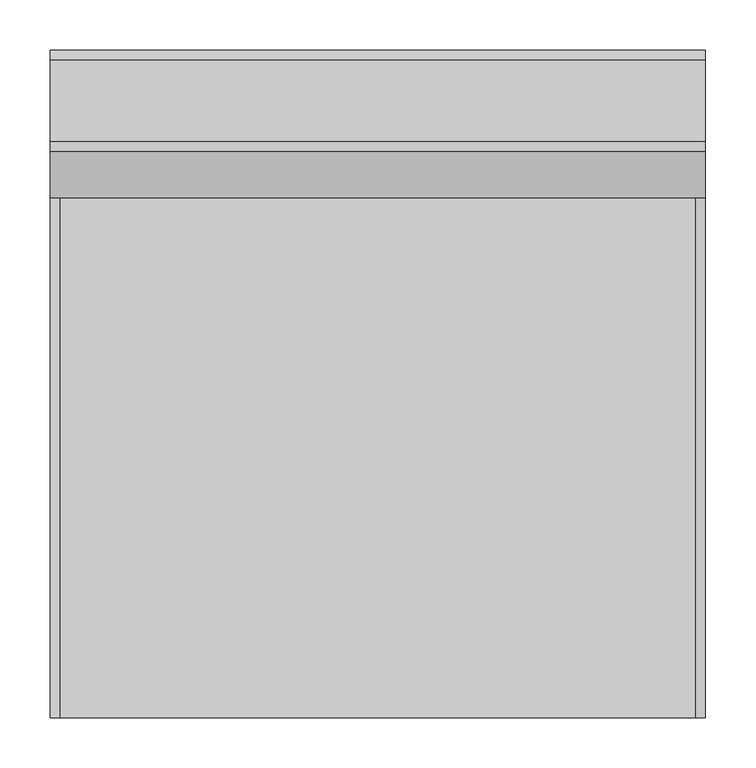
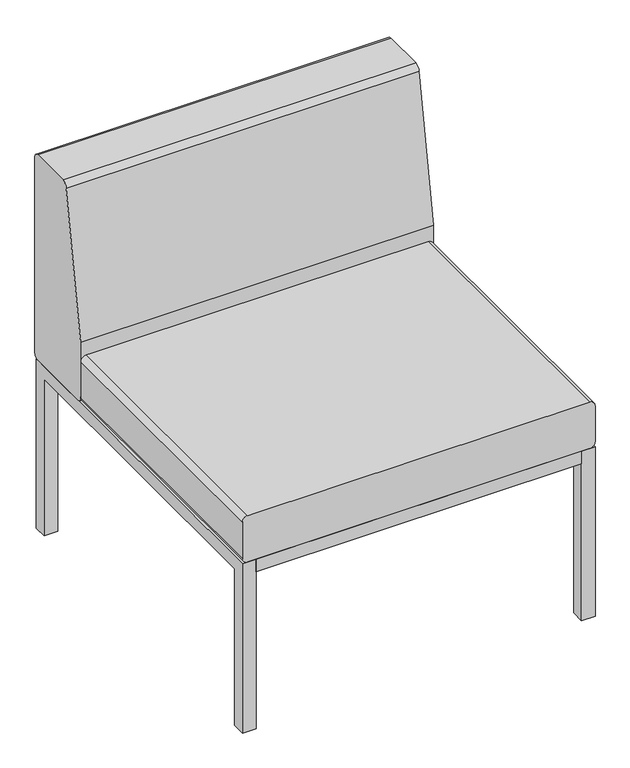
"""IFC4 building model written with IfcOpenShell, lengths in millimetres: furniture geometry, Sofá Modular - COLAB - SM 02 : Sofá Modular - COLAB - SM 02."""

from ifc_helpers import new_model, si_unit, point, frame, frame_2d, origin, place, context, project, spatial, polyline, circle_curve, trimmed, segment, composite_curve, outline, extrude, source, transform, mapped, element, save


def furniture_44890e2e(model_context):
    return source(origin(), model_context, "Body", "SweptSolid", [
        extrude(outline(composite_curve([segment(trimmed(circle_curve(frame_2d((652.0910271, 719.9999954)), 10.0000043), [point((652.0910271, 729.9999997))], [point((662.0910314, 719.9999954))], False, "CARTESIAN"), True, "CONTINUOUS"), segment(polyline([(662.0910314, 719.9999954), (662.0910314, 340.0000003)]), True, "CONTINUOUS"), segment(trimmed(circle_curve(frame_2d((652.0910191, 340.0000003)), 10.0000123), [point((662.0910314, 340.0000003))], [point((652.0910191, 329.999988))], False, "CARTESIAN"), True, "CONTINUOUS"), segment(polyline([(652.0910191, 329.999988), (525.1988265, 329.999988)]), True, "CONTINUOUS"), segment(trimmed(circle_curve(frame_2d((525.1988265, 339.9979833)), 9.9979953), [point((525.1988265, 329.999988))], [point((515.9708313, 343.8455817))], False, "CARTESIAN"), True, "CONTINUOUS"), segment(polyline([(515.9708313, 343.8455817), (515.9708313, 448.3189624), (562.0910306, 719.9999954)]), True, "CONTINUOUS"), segment(trimmed(circle_curve(frame_2d((572.0910349, 719.9999954)), 10.0000043), [point((562.0910306, 719.9999954))], [point((572.0910349, 729.9999997))], False, "CARTESIAN"), True, "CONTINUOUS"), segment(polyline([(572.0910349, 729.9999997), (652.0910271, 729.9999997)]), True, "CONTINUOUS")], self_intersect=False)), frame((0.0, 0.0, 0.0), z_axis=(1.0, 0.0, 0.0), x_axis=(0.0, 1.0, 0.0)), (0.0, 0.0, 1.0), 650.000005),
        extrude(outline(polyline([(75.263, 583.029965), (25.0000002, 583.029965), (25.0000002, 633.0299654), (75.263, 633.0299654), (75.263, 583.029965)])), frame((0.0, 0.0, 324.9999997), z_axis=(0.0, 0.0, 1.0), x_axis=(1.0, 0.0, 0.0)), (0.0, 0.0, 1.0), 4.9999883),
        extrude(outline(polyline([(75.263, 75.0000004), (75.263, 25.0), (25.0000002, 25.0), (25.0000002, 75.0000004), (75.263, 75.0000004)])), frame((0.0, 0.0, 324.9999997), z_axis=(0.0, 0.0, 1.0), x_axis=(1.0, 0.0, 0.0)), (0.0, 0.0, 1.0), 4.9999883),
        extrude(outline(composite_curve([segment(polyline([(419.9999997, 640.0), (419.9999997, 10.0)]), True, "CONTINUOUS"), segment(trimmed(circle_curve(frame_2d((409.9999997, 10.0)), 10.0), [point((419.9999997, 10.0))], [point((409.9999997, 0.0))], False, "CARTESIAN"), True, "CONTINUOUS"), segment(polyline([(409.9999997, 0.0), (340.0000475, 0.0)]), True, "CONTINUOUS"), segment(trimmed(circle_curve(frame_2d((340.0000475, 10.0000596)), 10.0000596), [point((340.0000475, 0.0))], [point((329.999988, 10.0000596))], False, "CARTESIAN"), True, "CONTINUOUS"), segment(polyline([(329.999988, 10.0000596), (329.999988, 639.9999927)]), True, "CONTINUOUS"), segment(trimmed(circle_curve(frame_2d((340.0000003, 639.9999927)), 10.0000123), [point((329.999988, 639.9999927))], [point((340.0000003, 650.000005))], False, "CARTESIAN"), True, "CONTINUOUS"), segment(polyline([(340.0000003, 650.000005), (409.9999948, 650.000005)]), True, "CONTINUOUS"), segment(trimmed(circle_curve(frame_2d((409.9999948, 640.0)), 10.000005), [point((409.9999948, 650.000005))], [point((419.9999997, 640.0))], False, "CARTESIAN"), True, "CONTINUOUS")], self_intersect=False)), frame((0.0, 0.0, 0.0), z_axis=(0.0, 1.0, 0.0), x_axis=(0.0, 0.0, 1.0)), (0.0, 0.0, 1.0), 515.9708313),
        extrude(outline(polyline([(574.737005, 583.029965), (574.737005, 633.0299654), (625.0000048, 633.0299654), (625.0000048, 583.029965), (574.737005, 583.029965)])), frame((0.0, 0.0, 324.9999997), z_axis=(0.0, 0.0, 1.0), x_axis=(1.0, 0.0, 0.0)), (0.0, 0.0, 1.0), 4.9999883),
        extrude(outline(polyline([(574.737005, 75.0000004), (625.0000048, 75.0000004), (625.0000048, 25.0), (574.737005, 25.0), (574.737005, 75.0000004)])), frame((0.0, 0.0, 324.9999997), z_axis=(0.0, 0.0, 1.0), x_axis=(1.0, 0.0, 0.0)), (0.0, 0.0, 1.0), 4.9999883),
        extrude(outline(polyline([(312.5000025, 25.0), (312.5000025, 633.0299654), (337.5000025, 633.0299654), (337.5000025, 25.0), (312.5000025, 25.0)])), frame((0.0, 0.0, 304.9999878), z_axis=(0.0, 0.0, 1.0), x_axis=(1.0, 0.0, 0.0)), (0.0, 0.0, 1.0), 25.0000002),
        extrude(outline(polyline([(625.0000048, 0.0), (25.0000002, 0.0), (25.0000002, 25.0), (625.0000048, 25.0), (625.0000048, 0.0)])), frame((0.0, 0.0, 304.9999878), z_axis=(0.0, 0.0, 1.0), x_axis=(1.0, 0.0, 0.0)), (0.0, 0.0, 1.0), 25.0000002),
        extrude(outline(polyline([(25.0, 0.0), (0.0, 0.0), (0.0, 329.999988), (658.0299654, 329.999988), (658.0299654, 0.0), (633.0299654, 0.0), (633.0299654, 304.9999878), (25.0, 304.9999878), (25.0, 0.0)])), frame((625.0000048, 0.0, 0.0), z_axis=(1.0, 0.0, 0.0), x_axis=(0.0, 1.0, 0.0)), (0.0, 0.0, 1.0), 25.0000002),
        extrude(outline(polyline([(25.0000002, 658.0299654), (625.0000048, 658.0299654), (625.0000048, 633.0299654), (25.0000002, 633.0299654), (25.0000002, 658.0299654)])), frame((0.0, 0.0, 304.9999878), z_axis=(0.0, 0.0, 1.0), x_axis=(1.0, 0.0, 0.0)), (0.0, 0.0, 1.0), 25.0000002),
        extrude(outline(polyline([(25.0, 0.0), (0.0, 0.0), (0.0, 329.999988), (658.0299654, 329.999988), (658.0299654, 0.0), (633.0299654, 0.0), (633.0299654, 304.9999878), (25.0, 304.9999878), (25.0, 0.0)])), frame((0.0, 0.0, 0.0), z_axis=(1.0, 0.0, 0.0), x_axis=(0.0, 1.0, 0.0)), (0.0, 0.0, 1.0), 25.0000002),
    ])


if __name__ == "__main__":
    model = new_model("IFC4")
    model_context = context("Model", 3, world=origin())
    ifc_project = project(units=[si_unit("LENGTHUNIT", "METRE", prefix="MILLI")], contexts=[model_context])
    site = spatial("IfcSite", under=ifc_project)
    building = spatial("IfcBuilding", under=site)
    placement = place(None, origin())
    furniture_shape = furniture_44890e2e(model_context)
    element("IfcFurniture", 1, ObjectType="Sofá Modular - COLAB - SM 02 : Sofá Modular - COLAB - SM 02", at=placement, inside=building, context=model_context, shape_type="MappedRepresentation", body=[
        mapped(furniture_shape, transform((0.0, 0.0, 0.0), x_axis=(1.0, 0.0, 0.0), y_axis=(0.0, 1.0, 0.0), z_axis=(0.0, 0.0, 1.0))),
    ])
    save(model, "model.ifc")
